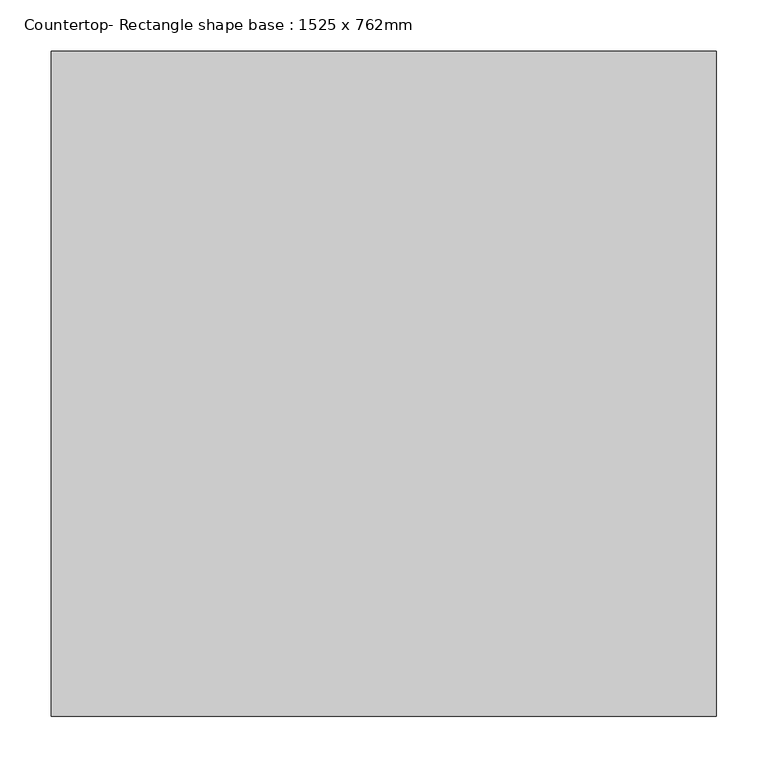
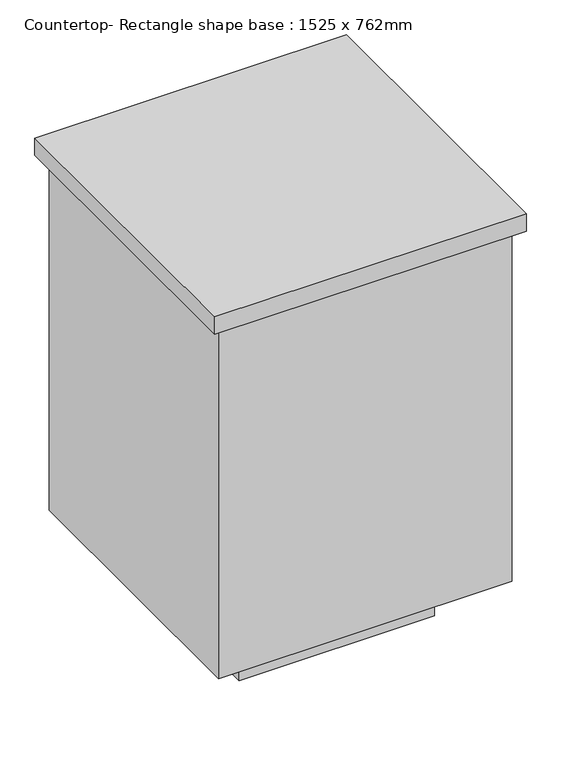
"""IFC4 building model written with IfcOpenShell, lengths in millimetres: proxy geometry, Countertop- Rectangle shape base : 1525 x 762mm."""

from ifc_helpers import new_model, si_unit, frame, origin, origin_with_axes, place, context, project, spatial, polyline, outline, extrude, source, transform, mapped, element, save


def countertop_rectangle_shape_base_1525_x_762mm_2a073e35(model_context):
    return source(origin(), model_context, "Body", "SweptSolid", [
        extrude(outline(polyline([(438.15, 57.15), (438.15, 704.85), (1085.85, 704.85), (1085.85, 57.15), (438.15, 57.15)])), frame((0.0, 0.0, 876.3), z_axis=(0.0, 0.0, 1.0), x_axis=(1.0, 0.0, 0.0)), (0.0, 0.0, 1.0), 38.1),
        extrude(outline(polyline([(1066.8, 685.8), (1066.8, 76.2), (457.2, 76.2), (457.2, 685.8), (1066.8, 685.8)])), frame((0.0, 0.0, 101.6), z_axis=(0.0, 0.0, 1.0), x_axis=(1.0, 0.0, 0.0)), (0.0, 0.0, 1.0), 774.7),
        extrude(outline(polyline([(965.2, 584.2), (965.2, 177.8), (558.8, 177.8), (558.8, 584.2), (965.2, 584.2)])), origin_with_axes(), (0.0, 0.0, 1.0), 101.6),
    ])


if __name__ == "__main__":
    model = new_model("IFC4")
    model_context = context("Model", 3, world=origin())
    ifc_project = project(units=[si_unit("LENGTHUNIT", "METRE", prefix="MILLI")], contexts=[model_context])
    site = spatial("IfcSite", under=ifc_project)
    building = spatial("IfcBuilding", under=site)
    placement = place(None, origin())
    countertop_rectangle_shape_base_1525_x_762mm_shape = countertop_rectangle_shape_base_1525_x_762mm_2a073e35(model_context)
    element("IfcBuildingElementProxy", 1, Name="Countertop- Rectangle shape base : 1525 x 762mm", ObjectType="Countertop- Rectangle shape base : 1525 x 762mm", at=placement, inside=building, context=model_context, shape_type="MappedRepresentation", body=[
        mapped(countertop_rectangle_shape_base_1525_x_762mm_shape, transform((0.0, 0.0, 0.0), x_axis=(1.0, 0.0, 0.0), y_axis=(0.0, 1.0, 0.0), z_axis=(0.0, 0.0, 1.0))),
    ])
    save(model, "model.ifc")
